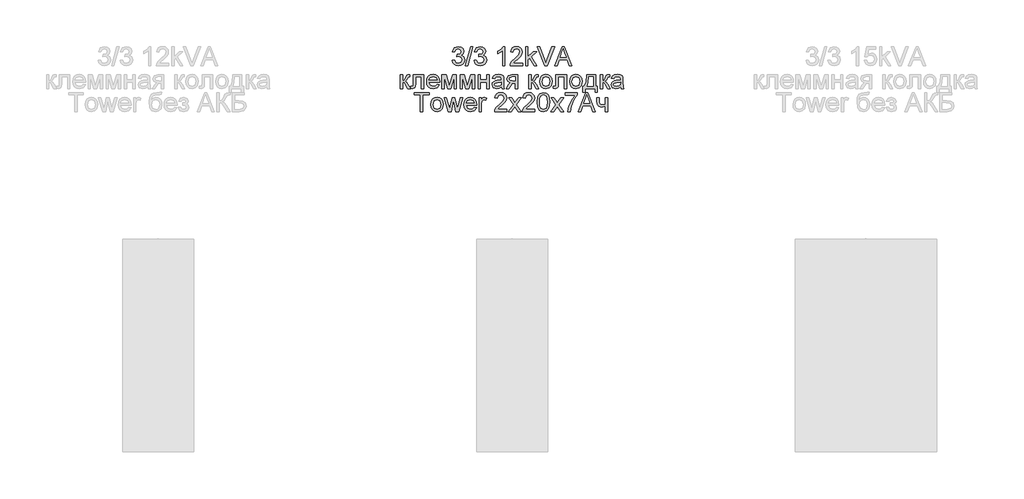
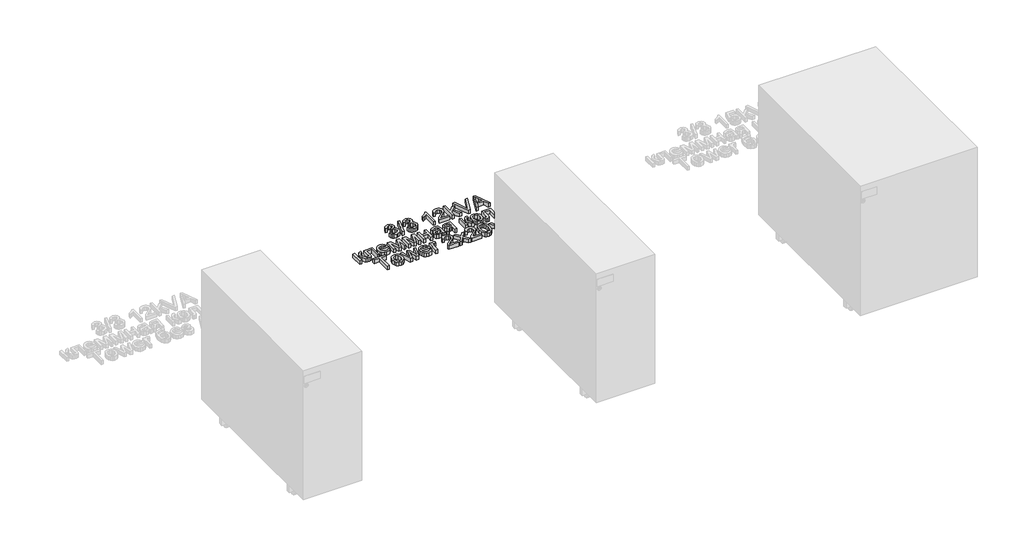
# One storey, part 26 of 74: 1 proxy.
"""IFC4 building model written with IfcOpenShell, lengths in millimetres."""

from ifc_helpers import new_model, si_unit, origin, origin_with_axes, place, context, project, spatial, polyline, outline, extrude, element, save

model = new_model("IFC4")

# Units and contexts
model_context = context("Model", 3, world=origin())
ifc_project = project(units=[si_unit("LENGTHUNIT", "METRE", prefix="MILLI")], contexts=[model_context])

# Site, building, storey
site = spatial("IfcSite", under=ifc_project)
building = spatial("IfcBuilding", under=site)
storey = spatial("IfcBuildingStorey", under=building, Name="Этаж 01", Elevation=0.0)

# Proxy
placement = place(None, origin())
element("IfcBuildingElementProxy", 1, Name="80 мм Arial", ObjectType="80 мм Arial", at=placement, inside=storey, context=model_context, shape_type="SweptSolid", body=[
    extrude(outline(polyline([(11598.3137414, -18752.4422861), (11608.3593724, -18751.1865822), (11613.9021278, -18761.7619633), (11624.2714949, -18764.9993249), (11636.475367, -18760.5455002), (11641.0076732, -18749.5188505), (11636.5146077, -18739.129863), (11625.0955506, -18735.0193948), (11618.0518367, -18736.1181357), (11619.1701979, -18726.0725047), (11620.7790685, -18726.1902269), (11632.1785053, -18723.3060321), (11637.2405615, -18714.4376235), (11633.5715518, -18706.5796641), (11624.114532, -18703.4698349), (11614.5397899, -18706.6090946), (11609.6150762, -18716.0268737), (11599.5694452, -18714.7711698), (11607.7903816, -18699.0160102), (11623.7613652, -18693.4242039), (11635.8769456, -18696.1808663), (11644.3529468, -18703.7150896), (11647.2861926, -18713.8490123), (11644.5000996, -18723.1098284), (11636.2595429, -18729.7611348), (11647.2077111, -18736.6282654), (11651.0533042, -18749.6954339), (11649.1305076, -18759.4860001), (11643.3621179, -18767.6676956), (11634.6555774, -18773.2006408), (11623.9183282, -18775.0449559), (11614.2062435, -18773.470421), (11606.2992332, -18768.7468161), (11600.8006236, -18761.5216138), (11598.3137414, -18752.4422861)])), origin_with_axes(), (0.0, 0.0, 1.0), 20.0),
    extrude(outline(polyline([(11654.8204158, -18773.789252), (11677.4230856, -18693.4242039), (11686.487698, -18693.4242039), (11663.8850282, -18773.789252), (11654.8204158, -18773.789252)])), origin_with_axes(), (0.0, 0.0, 1.0), 20.0),
    extrude(outline(polyline([(11691.2358282, -18752.4422861), (11701.2814593, -18751.1865822), (11706.8242147, -18761.7619633), (11717.1935818, -18764.9993249), (11729.3974539, -18760.5455002), (11733.9297601, -18749.5188505), (11729.4366946, -18739.129863), (11718.0176375, -18735.0193948), (11710.9739236, -18736.1181357), (11712.0922848, -18726.0725047), (11713.7011554, -18726.1902269), (11725.1005922, -18723.3060321), (11730.1626484, -18714.4376235), (11726.4936387, -18706.5796641), (11717.0366188, -18703.4698349), (11707.4618768, -18706.6090946), (11702.5371631, -18716.0268737), (11692.4915321, -18714.7711698), (11700.7124684, -18699.0160102), (11716.6834521, -18693.4242039), (11728.7990325, -18696.1808663), (11737.2750337, -18703.7150896), (11740.2082794, -18713.8490123), (11737.4221865, -18723.1098284), (11729.1816298, -18729.7611348), (11740.129798, -18736.6282654), (11743.9753911, -18749.6954339), (11742.0525945, -18759.4860001), (11736.2842048, -18767.6676956), (11727.5776643, -18773.2006408), (11716.8404151, -18775.0449559), (11707.1283304, -18773.470421), (11699.2213201, -18768.7468161), (11693.7227105, -18761.5216138), (11691.2358282, -18752.4422861)])), origin_with_axes(), (0.0, 0.0, 1.0), 20.0),
    extrude(outline(polyline([(11821.8290314, -18773.789252), (11811.7834004, -18773.789252), (11811.7834004, -18711.1610212), (11802.2675195, -18717.9398601), (11791.6921384, -18723.0117265), (11791.6921384, -18713.5154659), (11806.4172284, -18704.1173072), (11815.3543083, -18693.4242039), (11821.8290314, -18693.4242039), (11821.8290314, -18773.789252)])), origin_with_axes(), (0.0, 0.0, 1.0), 20.0),
    extrude(outline(polyline([(11897.1712641, -18763.743621), (11897.1712641, -18773.789252), (11844.4317012, -18773.789252), (11845.5108217, -18766.8632603), (11851.6127578, -18756.1995876), (11864.1894169, -18744.5548961), (11881.5338267, -18727.8187179), (11885.8699292, -18716.4389015), (11881.7790814, -18707.2271364), (11871.0957882, -18703.4698349), (11859.9612265, -18707.1388447), (11855.7330361, -18717.2825776), (11845.6874051, -18716.0268737), (11848.1227839, -18706.3098839), (11853.3884015, -18699.212214), (11861.2095727, -18694.8712064), (11871.3116123, -18693.4242039), (11881.4872283, -18695.0330745), (11889.2936843, -18699.8596863), (11894.2600912, -18707.0701734), (11895.9155602, -18715.83067), (11894.1301062, -18725.3563611), (11888.1949434, -18735.2057884), (11873.8033997, -18748.9694801), (11862.247, -18758.6325138), (11857.7146938, -18763.743621), (11897.1712641, -18763.743621)])), origin_with_axes(), (0.0, 0.0, 1.0), 20.0),
    extrude(outline(polyline([(11909.7283028, -18773.789252), (11909.7283028, -18693.4242039), (11919.7739338, -18693.4242039), (11919.7739338, -18736.608645), (11942.2981221, -18714.7711698), (11956.1893463, -18714.7711698), (11933.3904728, -18736.8833303), (11957.4450501, -18773.789252), (11945.712067, -18773.789252), (11926.1897958, -18743.8681831), (11919.7739338, -18750.0878413), (11919.7739338, -18773.789252), (11909.7283028, -18773.789252)])), origin_with_axes(), (0.0, 0.0, 1.0), 20.0),
    extrude(outline(polyline([(12032.2182919, -18773.789252), (12064.2976019, -18693.4242039), (12072.8520846, -18693.4242039), (12104.9313946, -18773.789252), (12094.3167727, -18773.789252), (12085.1148177, -18748.6751745), (12052.0152484, -18748.6751745), (12042.8329138, -18773.789252), (12032.2182919, -18773.789252)]), holes=[polyline([(12055.7038785, -18738.6295435), (12081.445808, -18738.6295435), (12074.2058903, -18718.8718278), (12068.5748432, -18703.4698349), (12063.5716481, -18717.145235), (12055.7038785, -18738.6295435)])]), origin_with_axes(), (0.0, 0.0, 1.0), 20.0),
    extrude(outline(polyline([(11991.2313326, -18773.789252), (11959.2501245, -18693.4242039), (11970.0020889, -18693.4242039), (11991.4079159, -18751.3239249), (11995.7440184, -18764.3714729), (12000.0212597, -18751.3239249), (12021.4859479, -18693.4242039), (12032.2379123, -18693.4242039), (12001.6105099, -18773.789252), (11991.2313326, -18773.789252)])), origin_with_axes(), (0.0, 0.0, 1.0), 20.0),
    extrude(outline(polyline([(11433.1886815, -18812.3510241), (11478.3940211, -18812.3510241), (11478.3940211, -18871.3102452), (11468.3483901, -18871.3102452), (11468.3483901, -18822.3966551), (11443.2343126, -18822.3966551), (11443.2343126, -18850.5518905), (11442.5574097, -18863.5405774), (11438.839349, -18869.0244717), (11430.0494219, -18871.3691063), (11421.8873467, -18870.8589766), (11421.8873467, -18861.3234753), (11426.3804121, -18861.3234753), (11430.9225285, -18860.7054335), (11432.737413, -18858.7433962), (11433.1886815, -18849.9828996), (11433.1886815, -18812.3510241)])), origin_with_axes(), (0.0, 0.0, 1.0), 20.0),
    extrude(outline(polyline([(11379.1934148, -18812.3510241), (11389.2390459, -18812.3510241), (11389.2390459, -18837.4651016), (11395.9688338, -18835.6600273), (11401.4821587, -18825.1435073), (11406.0635158, -18816.0690848), (11410.1053126, -18813.1162186), (11417.4531423, -18812.3510241), (11419.3759389, -18812.3510241), (11419.3759389, -18822.4555162), (11416.6683274, -18822.3966551), (11411.7632341, -18823.4561553), (11408.3100485, -18830.068221), (11404.2584414, -18837.219847), (11398.5783434, -18840.7220836), (11404.9157239, -18844.6314429), (11411.1353822, -18852.8670945), (11421.8873467, -18871.3691063), (11410.4682895, -18871.3691063), (11399.9321492, -18853.259502), (11394.6346485, -18845.5977463), (11389.2390459, -18843.743621), (11389.2390459, -18871.3691063), (11379.1934148, -18871.3691063), (11379.1934148, -18812.3510241)])), origin_with_axes(), (0.0, 0.0, 1.0), 20.0),
    extrude(outline(polyline([(11534.7829733, -18853.789252), (11544.6324006, -18855.0449559), (11535.4206355, -18868.0140225), (11518.2626192, -18872.6248102), (11506.4756801, -18870.6357949), (11497.4061626, -18864.6687489), (11491.6230577, -18855.1111747), (11489.695356, -18842.3505745), (11491.642678, -18829.1607787), (11497.4846441, -18819.2966362), (11506.4315342, -18813.1456492), (11517.6936284, -18811.0953202), (11528.6050084, -18813.1407441), (11537.3238116, -18819.2770158), (11543.0406979, -18829.121538), (11544.9463266, -18842.2917134), (11544.8874655, -18844.9993249), (11499.740987, -18844.9993249), (11505.5191869, -18858.046873), (11518.4588229, -18862.5791792), (11528.3082502, -18860.4797992), (11534.7829733, -18853.789252)]), holes=[polyline([(11499.740987, -18834.9536939), (11534.9006956, -18834.9536939), (11530.8785191, -18825.8498408), (11517.6543876, -18821.1409512), (11505.2837424, -18824.8982527), (11499.740987, -18834.9536939)])]), origin_with_axes(), (0.0, 0.0, 1.0), 20.0),
    extrude(outline(polyline([(11554.9919576, -18812.3510241), (11572.2775063, -18812.3510241), (11585.5997396, -18859.5968825), (11599.9618527, -18812.3510241), (11616.5214476, -18812.3510241), (11616.5214476, -18871.3691063), (11606.4758166, -18871.3691063), (11606.4758166, -18823.8485627), (11592.035222, -18871.3691063), (11578.8503313, -18871.3691063), (11565.0375886, -18821.5725994), (11565.0375886, -18871.3691063), (11554.9919576, -18871.3691063), (11554.9919576, -18812.3510241)])), origin_with_axes(), (0.0, 0.0, 1.0), 20.0),
    extrude(outline(polyline([(11631.5898941, -18812.3510241), (11648.8754428, -18812.3510241), (11662.1976761, -18859.5968825), (11676.5597892, -18812.3510241), (11693.1193841, -18812.3510241), (11693.1193841, -18871.3691063), (11683.073753, -18871.3691063), (11683.073753, -18823.8485627), (11668.6331585, -18871.3691063), (11655.4482678, -18871.3691063), (11641.6355251, -18821.5725994), (11641.6355251, -18871.3691063), (11631.5898941, -18871.3691063), (11631.5898941, -18812.3510241)])), origin_with_axes(), (0.0, 0.0, 1.0), 20.0),
    extrude(outline(polyline([(11708.1878306, -18812.3510241), (11718.2334616, -18812.3510241), (11718.2334616, -18834.9536939), (11744.603243, -18834.9536939), (11744.603243, -18812.3510241), (11754.648874, -18812.3510241), (11754.648874, -18871.3691063), (11744.603243, -18871.3691063), (11744.603243, -18844.9993249), (11718.2334616, -18844.9993249), (11718.2334616, -18871.3691063), (11708.1878306, -18871.3691063), (11708.1878306, -18812.3510241)])), origin_with_axes(), (0.0, 0.0, 1.0), 20.0),
    extrude(outline(polyline([(11807.3884369, -18863.834883), (11797.6469216, -18870.6431525), (11786.885147, -18872.6248102), (11772.2973996, -18867.8570595), (11767.2059128, -18855.6728078), (11769.1287094, -18847.7265567), (11774.1809554, -18841.9581671), (11781.2148592, -18838.6619444), (11789.9066844, -18837.1511757), (11807.3295757, -18833.69799), (11807.3884369, -18831.4612675), (11804.6219643, -18824.0447664), (11793.5168331, -18821.1409512), (11783.3534798, -18823.073558), (11778.5072477, -18829.9308784), (11768.4616167, -18828.6751745), (11772.8075293, -18818.864988), (11781.5582157, -18813.1162186), (11794.8117777, -18811.0953202), (11806.9862192, -18812.8807742), (11813.86316, -18817.3640294), (11816.9435585, -18824.1821091), (11817.4340679, -18832.9720362), (11817.4340679, -18845.4702138), (11817.9441976, -18862.9225357), (11819.9454756, -18871.3691063), (11809.8998446, -18871.3691063), (11807.3884369, -18863.834883)]), holes=[polyline([(11807.3884369, -18843.743621), (11791.1820087, -18846.8240196), (11782.5392344, -18848.4525105), (11778.6249699, -18851.1012609), (11777.2515438, -18854.9664744), (11780.2436507, -18860.4013178), (11789.0237677, -18862.5791792), (11799.1871209, -18860.1756835), (11805.7403255, -18854.3582428), (11807.3295757, -18846.5885751), (11807.3884369, -18843.743621)])]), origin_with_axes(), (0.0, 0.0, 1.0), 20.0),
    extrude(outline(polyline([(11876.4521501, -18812.3510241), (11876.4521501, -18871.3691063), (11866.4065191, -18871.3691063), (11866.4065191, -18848.7664365), (11860.932435, -18848.7664365), (11853.4766932, -18850.0417608), (11846.47222, -18858.6158638), (11838.4671078, -18871.3691063), (11826.8518469, -18871.3691063), (11836.9367187, -18855.2411596), (11845.4912014, -18846.8828807), (11833.797459, -18840.7809447), (11829.9911066, -18829.4011283), (11835.1905055, -18817.079534), (11850.2393317, -18812.3510241), (11876.4521501, -18812.3510241)]), holes=[polyline([(11866.4065191, -18822.3966551), (11853.1627672, -18822.3966551), (11842.4402334, -18824.7216693), (11840.0367377, -18830.1663228), (11843.578215, -18836.6508561), (11856.1254436, -18838.7208055), (11866.4065191, -18838.7208055), (11866.4065191, -18822.3966551)])]), origin_with_axes(), (0.0, 0.0, 1.0), 20.0),
    extrude(outline(polyline([(11922.9131935, -18812.3510241), (11932.9588245, -18812.3510241), (11932.9588245, -18837.4651016), (11939.6886125, -18835.6600273), (11945.2019373, -18825.1435073), (11949.7832945, -18816.0690848), (11953.8250913, -18813.1162186), (11961.172921, -18812.3510241), (11963.0957176, -18812.3510241), (11963.0957176, -18822.4555162), (11960.3881061, -18822.3966551), (11955.4830128, -18823.4561553), (11952.0298272, -18830.068221), (11947.9782201, -18837.219847), (11942.2981221, -18840.7220836), (11948.6355026, -18844.6314429), (11954.8551609, -18852.8670945), (11965.6071253, -18871.3691063), (11954.1880682, -18871.3691063), (11943.6519279, -18853.259502), (11938.3544271, -18845.5977463), (11932.9588245, -18843.743621), (11932.9588245, -18871.3691063), (11922.9131935, -18871.3691063), (11922.9131935, -18812.3510241)])), origin_with_axes(), (0.0, 0.0, 1.0), 20.0),
    extrude(outline(polyline([(11969.374237, -18841.8600652), (11971.5471933, -18827.6303896), (11978.0660622, -18817.6289044), (11986.1202254, -18812.7287163), (11995.7636388, -18811.0953202), (12006.3169469, -18813.0843355), (12014.7463497, -18819.0513815), (12020.2719373, -18828.5255691), (12022.1137998, -18841.0360095), (12018.8568179, -18858.9101694), (12009.3703675, -18869.0244717), (11995.7636388, -18872.6248102), (11985.0827982, -18870.6431525), (11976.6632056, -18864.6981795), (11971.1964791, -18855.0253355), (11969.374237, -18841.8600652)]), holes=[polyline([(11979.419868, -18841.8404448), (11984.0698964, -18857.4092109), (11995.7636388, -18862.5791792), (12007.4181404, -18857.3797803), (12012.0681688, -18841.5265189), (12007.3887098, -18826.3109195), (11995.7636388, -18821.1409512), (11984.0698964, -18826.2912992), (11979.419868, -18841.8404448)])]), origin_with_axes(), (0.0, 0.0, 1.0), 20.0),
    extrude(outline(polyline([(12038.4379502, -18812.3510241), (12083.6432898, -18812.3510241), (12083.6432898, -18871.3102452), (12073.5976588, -18871.3102452), (12073.5976588, -18822.3966551), (12048.4835812, -18822.3966551), (12048.4835812, -18850.5518905), (12047.8066783, -18863.5405774), (12044.0886176, -18869.0244717), (12035.2986905, -18871.3691063), (12027.1366153, -18870.8589766), (12027.1366153, -18861.3234753), (12031.6296807, -18861.3234753), (12036.1717971, -18860.7054335), (12037.9866816, -18858.7433962), (12038.4379502, -18849.9828996), (12038.4379502, -18812.3510241)])), origin_with_axes(), (0.0, 0.0, 1.0), 20.0),
    extrude(outline(polyline([(12096.2003285, -18841.8600652), (12098.3732849, -18827.6303896), (12104.8921538, -18817.6289044), (12112.946317, -18812.7287163), (12122.5897303, -18811.0953202), (12133.1430385, -18813.0843355), (12141.5724413, -18819.0513815), (12147.0980288, -18828.5255691), (12148.9398914, -18841.0360095), (12145.6829094, -18858.9101694), (12136.1964591, -18869.0244717), (12122.5897303, -18872.6248102), (12111.9088897, -18870.6431525), (12103.4892971, -18864.6981795), (12098.0225707, -18855.0253355), (12096.2003285, -18841.8600652)]), holes=[polyline([(12106.2459596, -18841.8404448), (12110.895988, -18857.4092109), (12122.5897303, -18862.5791792), (12134.2442319, -18857.3797803), (12138.8942603, -18841.5265189), (12134.2148014, -18826.3109195), (12122.5897303, -18821.1409512), (12110.895988, -18826.2912992), (12106.2459596, -18841.8404448)])]), origin_with_axes(), (0.0, 0.0, 1.0), 20.0),
    extrude(outline(polyline([(12169.0311534, -18812.3510241), (12206.7022697, -18812.3510241), (12206.7022697, -18861.3234753), (12214.236493, -18861.3234753), (12214.236493, -18887.6932567), (12204.1908619, -18887.6932567), (12204.1908619, -18871.3691063), (12162.752634, -18871.3691063), (12162.752634, -18887.6932567), (12152.707003, -18887.6932567), (12152.707003, -18861.3234753), (12158.9855224, -18861.3234753), (12166.7453799, -18842.164181), (12169.0311534, -18812.3510241)]), holes=[polyline([(12177.8210805, -18822.3966551), (12175.4666358, -18845.2838203), (12170.2868573, -18861.3234753), (12196.6566387, -18861.3234753), (12196.6566387, -18822.3966551), (12177.8210805, -18822.3966551)])]), origin_with_axes(), (0.0, 0.0, 1.0), 20.0),
    extrude(outline(polyline([(12225.5378279, -18812.3510241), (12235.5834589, -18812.3510241), (12235.5834589, -18837.4651016), (12242.3132468, -18835.6600273), (12247.8265717, -18825.1435073), (12252.4079288, -18816.0690848), (12256.4497256, -18813.1162186), (12263.7975554, -18812.3510241), (12265.7203519, -18812.3510241), (12265.7203519, -18822.4555162), (12263.0127404, -18822.3966551), (12258.1076472, -18823.4561553), (12254.6544615, -18830.068221), (12250.6028545, -18837.219847), (12244.9227565, -18840.7220836), (12251.260137, -18844.6314429), (12257.4797952, -18852.8670945), (12268.2317597, -18871.3691063), (12256.8127025, -18871.3691063), (12246.2765622, -18853.259502), (12240.9790615, -18845.5977463), (12235.5834589, -18843.743621), (12235.5834589, -18871.3691063), (12225.5378279, -18871.3691063), (12225.5378279, -18812.3510241)])), origin_with_axes(), (0.0, 0.0, 1.0), 20.0),
    extrude(outline(polyline([(12312.1813954, -18863.834883), (12302.4398801, -18870.6431525), (12291.6781055, -18872.6248102), (12277.0903581, -18867.8570595), (12271.9988713, -18855.6728078), (12273.9216679, -18847.7265567), (12278.9739139, -18841.9581671), (12286.0078177, -18838.6619444), (12294.6996429, -18837.1511757), (12312.1225342, -18833.69799), (12312.1813954, -18831.4612675), (12309.4149228, -18824.0447664), (12298.3097916, -18821.1409512), (12288.1464383, -18823.073558), (12283.3002062, -18829.9308784), (12273.2545752, -18828.6751745), (12277.6004878, -18818.864988), (12286.3511742, -18813.1162186), (12299.6047362, -18811.0953202), (12311.7791777, -18812.8807742), (12318.6561185, -18817.3640294), (12321.736517, -18824.1821091), (12322.2270264, -18832.9720362), (12322.2270264, -18845.4702138), (12322.7371561, -18862.9225357), (12324.7384341, -18871.3691063), (12314.6928031, -18871.3691063), (12312.1813954, -18863.834883)]), holes=[polyline([(12312.1813954, -18843.743621), (12295.9749672, -18846.8240196), (12287.3321929, -18848.4525105), (12283.4179284, -18851.1012609), (12282.0445023, -18854.9664744), (12285.0366092, -18860.4013178), (12293.8167262, -18862.5791792), (12303.9800794, -18860.1756835), (12310.533284, -18854.3582428), (12312.1225342, -18846.5885751), (12312.1813954, -18843.743621)])]), origin_with_axes(), (0.0, 0.0, 1.0), 20.0),
    extrude(outline(polyline([(11463.9534265, -18968.9489606), (11463.9534265, -18898.6295435), (11437.5836451, -18898.6295435), (11437.5836451, -18888.5839125), (11500.368839, -18888.5839125), (11500.368839, -18898.6295435), (11473.9990575, -18898.6295435), (11473.9990575, -18968.9489606), (11463.9534265, -18968.9489606)])), origin_with_axes(), (0.0, 0.0, 1.0), 20.0),
    extrude(outline(polyline([(11507.9030622, -18939.4399195), (11510.0760185, -18925.2102439), (11516.5948875, -18915.2087587), (11524.6490506, -18910.3085705), (11534.292464, -18908.6751745), (11544.8457722, -18910.6641898), (11553.275175, -18916.6312358), (11558.8007625, -18926.1054234), (11560.6426251, -18938.6158638), (11557.3856431, -18956.4900237), (11547.8991927, -18966.604326), (11534.292464, -18970.2046645), (11523.6116234, -18968.2230068), (11515.1920308, -18962.2780337), (11509.7253044, -18952.6051898), (11507.9030622, -18939.4399195)]), holes=[polyline([(11517.9486932, -18939.4202991), (11522.5987217, -18954.9890651), (11534.292464, -18960.1590334), (11545.9469656, -18954.9596346), (11550.596994, -18939.1063731), (11545.9175351, -18923.8907738), (11534.292464, -18918.7208055), (11522.5987217, -18923.8711534), (11517.9486932, -18939.4202991)])]), origin_with_axes(), (0.0, 0.0, 1.0), 20.0),
    extrude(outline(polyline([(11581.7345261, -18968.9489606), (11563.7818847, -18909.9308784), (11574.2199232, -18909.9308784), (11584.4028968, -18944.3646331), (11587.4440547, -18956.666607), (11589.9358421, -18944.8159017), (11598.0390561, -18909.9308784), (11610.0074837, -18909.9308784), (11618.071457, -18944.7177998), (11620.2885592, -18955.4501439), (11623.4670596, -18944.1291886), (11633.6696536, -18909.9308784), (11644.1469329, -18909.9308784), (11626.0569489, -18968.9489606), (11613.911938, -18968.9489606), (11606.2011313, -18934.3386225), (11603.9644088, -18923.5474173), (11594.0168797, -18968.9489606), (11581.7345261, -18968.9489606)])), origin_with_axes(), (0.0, 0.0, 1.0), 20.0),
    extrude(outline(polyline([(11692.3738099, -18951.3691063), (11702.2232372, -18952.6248102), (11693.011472, -18965.5938768), (11675.8534558, -18970.2046645), (11664.0665166, -18968.2156491), (11654.9969992, -18962.2486032), (11649.2138942, -18952.6910289), (11647.2861926, -18939.9304288), (11649.2335146, -18926.740633), (11655.0754807, -18916.8764904), (11664.0223708, -18910.7255035), (11675.2844649, -18908.6751745), (11686.1958449, -18910.7205984), (11694.9146482, -18916.8568701), (11700.6315344, -18926.7013923), (11702.5371631, -18939.8715677), (11702.478302, -18942.5791792), (11657.3318236, -18942.5791792), (11663.1100234, -18955.6267273), (11676.0496595, -18960.1590334), (11685.8990868, -18958.0596535), (11692.3738099, -18951.3691063)]), holes=[polyline([(11657.3318236, -18932.5335481), (11692.4915321, -18932.5335481), (11688.4693556, -18923.429695), (11675.2452242, -18918.7208055), (11662.874579, -18922.4781069), (11657.3318236, -18932.5335481)])]), origin_with_axes(), (0.0, 0.0, 1.0), 20.0),
    extrude(outline(polyline([(11712.5827942, -18968.9489606), (11712.5827942, -18909.9308784), (11721.3727213, -18909.9308784), (11721.3727213, -18918.6619444), (11727.6119999, -18910.6175914), (11733.8905193, -18908.6751745), (11743.9753911, -18911.7751934), (11740.6203073, -18920.7809447), (11733.556973, -18918.7208055), (11727.876875, -18920.7024632), (11724.2569161, -18926.1961676), (11722.6284252, -18937.9291507), (11722.6284252, -18968.9489606), (11712.5827942, -18968.9489606)])), origin_with_axes(), (0.0, 0.0, 1.0), 20.0),
    extrude(outline(polyline([(11830.6189586, -18958.9033296), (11830.6189586, -18968.9489606), (11777.8793957, -18968.9489606), (11778.9585163, -18962.0229689), (11785.0604523, -18951.3592961), (11797.6371114, -18939.7146047), (11814.9815212, -18922.9784265), (11819.3176237, -18911.5986101), (11815.2267759, -18902.3868449), (11804.5434828, -18898.6295435), (11793.408921, -18902.2985532), (11789.1807306, -18912.4422861), (11779.1350996, -18911.1865822), (11781.5704784, -18901.4695925), (11786.8360961, -18894.3719225), (11794.6572673, -18890.030915), (11804.7593069, -18888.5839125), (11814.9349228, -18890.1927831), (11822.7413788, -18895.0193948), (11827.7077857, -18902.2298819), (11829.3632547, -18910.9903785), (11827.5778008, -18920.5160696), (11821.6426379, -18930.3654969), (11807.2510942, -18944.1291886), (11795.6946945, -18953.7922224), (11791.1623883, -18958.9033296), (11830.6189586, -18958.9033296)])), origin_with_axes(), (0.0, 0.0, 1.0), 20.0),
    extrude(outline(polyline([(11836.897478, -18968.9489606), (11858.3621661, -18939.2829565), (11838.1531818, -18909.9308784), (11850.2393317, -18909.9308784), (11859.9906571, -18924.057547), (11864.5425836, -18930.7284738), (11868.4862786, -18925.2740101), (11879.5914098, -18909.9308784), (11891.6775596, -18909.9308784), (11870.4483159, -18939.2829565), (11890.8927447, -18968.9489606), (11878.8065949, -18968.9489606), (11866.5046209, -18951.1140415), (11864.248278, -18947.8570595), (11848.9836278, -18968.9489606), (11836.897478, -18968.9489606)])), origin_with_axes(), (0.0, 0.0, 1.0), 20.0),
    extrude(outline(polyline([(11948.655123, -18958.9033296), (11948.655123, -18968.9489606), (11895.9155602, -18968.9489606), (11896.9946807, -18962.0229689), (11903.0966167, -18951.3592961), (11915.6732759, -18939.7146047), (11933.0176857, -18922.9784265), (11937.3537881, -18911.5986101), (11933.2629403, -18902.3868449), (11922.5796472, -18898.6295435), (11911.4450855, -18902.2985532), (11907.2168951, -18912.4422861), (11897.1712641, -18911.1865822), (11899.6066429, -18901.4695925), (11904.8722605, -18894.3719225), (11912.6934317, -18890.030915), (11922.7954713, -18888.5839125), (11932.9710873, -18890.1927831), (11940.7775432, -18895.0193948), (11945.7439501, -18902.2298819), (11947.3994191, -18910.9903785), (11945.6139652, -18920.5160696), (11939.6788023, -18930.3654969), (11925.2872587, -18944.1291886), (11913.7308589, -18953.7922224), (11909.1985527, -18958.9033296), (11948.655123, -18958.9033296)])), origin_with_axes(), (0.0, 0.0, 1.0), 20.0),
    extrude(outline(polyline([(11958.700754, -18929.4139088), (11961.6536202, -18906.2912992), (11970.4239269, -18892.9592557), (11985.0705354, -18888.5839125), (11996.8035185, -18891.1738017), (12004.9067326, -18898.6393537), (12009.6156222, -18910.5292997), (12011.4403168, -18929.4139088), (12008.5168813, -18952.4384166), (11999.7760051, -18965.7998907), (11985.0705354, -18970.2046645), (11974.632497, -18968.2916781), (11966.7058662, -18962.552719), (11960.7020321, -18948.9607055), (11958.700754, -18929.4139088)]), holes=[polyline([(11968.746385, -18929.3942885), (11969.9236074, -18945.1960464), (11973.4552746, -18954.3415928), (11985.0705354, -18960.1590334), (11996.6857963, -18954.3219724), (12000.2174634, -18945.171521), (12001.3946858, -18929.3942885), (12000.2567042, -18913.9481498), (11996.8427593, -18904.7314795), (11991.5943095, -18900.1550275), (11984.9528132, -18898.6295435), (11973.6122376, -18904.0055257), (11969.9628482, -18913.7960919), (11968.746385, -18929.3942885)])]), origin_with_axes(), (0.0, 0.0, 1.0), 20.0),
    extrude(outline(polyline([(12016.4631324, -18968.9489606), (12037.9278205, -18939.2829565), (12017.7188362, -18909.9308784), (12029.804986, -18909.9308784), (12039.5563115, -18924.057547), (12044.108238, -18930.7284738), (12048.051933, -18925.2740101), (12059.1570642, -18909.9308784), (12071.243214, -18909.9308784), (12050.0139703, -18939.2829565), (12070.4583991, -18968.9489606), (12058.3722492, -18968.9489606), (12046.0702753, -18951.1140415), (12043.8139324, -18947.8570595), (12028.5492822, -18968.9489606), (12016.4631324, -18968.9489606)])), origin_with_axes(), (0.0, 0.0, 1.0), 20.0),
    extrude(outline(polyline([(12076.7369184, -18899.8852474), (12076.7369184, -18889.8396163), (12129.4764813, -18889.8396163), (12129.4764813, -18897.9624508), (12114.5159468, -18919.5742917), (12103.0674591, -18947.1114853), (12099.3395882, -18968.9489606), (12089.2939572, -18968.9489606), (12093.2867031, -18946.2874297), (12104.2446815, -18920.6730326), (12119.4308503, -18899.8852474), (12076.7369184, -18899.8852474)])), origin_with_axes(), (0.0, 0.0, 1.0), 20.0),
    extrude(outline(polyline([(12132.6746021, -18968.9489606), (12164.7539121, -18888.5839125), (12173.3083947, -18888.5839125), (12205.3877047, -18968.9489606), (12194.7730829, -18968.9489606), (12185.5711279, -18943.834883), (12152.4715585, -18943.834883), (12143.2892239, -18968.9489606), (12132.6746021, -18968.9489606)]), holes=[polyline([(12156.1601887, -18933.789252), (12181.9021181, -18933.789252), (12174.6622005, -18914.0315363), (12169.0311534, -18898.6295435), (12164.0279583, -18912.3049435), (12156.1601887, -18933.789252)])]), origin_with_axes(), (0.0, 0.0, 1.0), 20.0),
    extrude(outline(polyline([(12211.0972333, -18909.9308784), (12221.1428643, -18909.9308784), (12221.1428643, -18921.2518336), (12221.9571098, -18931.8664555), (12225.8713742, -18937.6152248), (12233.6410419, -18940.0677714), (12247.5126457, -18937.0266136), (12247.5126457, -18909.9308784), (12257.5582767, -18909.9308784), (12257.5582767, -18968.9489606), (12247.5126457, -18968.9489606), (12247.5126457, -18946.6602168), (12230.9530508, -18950.1134024), (12219.5634243, -18946.513064), (12212.8630668, -18937.6937063), (12211.0972333, -18926.215788), (12211.0972333, -18909.9308784)])), origin_with_axes(), (0.0, 0.0, 1.0), 20.0),
])

save(model, "model.ifc")
